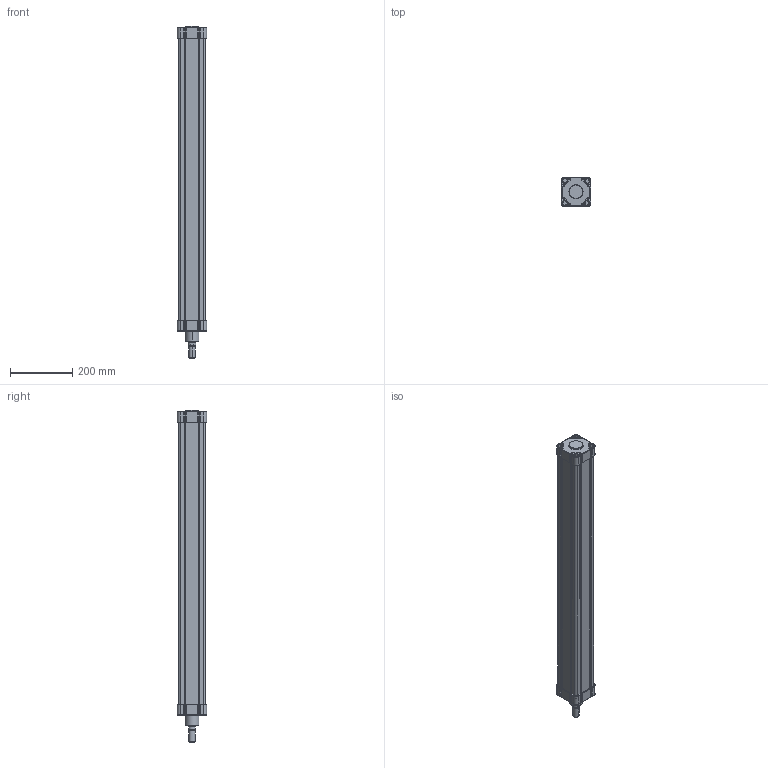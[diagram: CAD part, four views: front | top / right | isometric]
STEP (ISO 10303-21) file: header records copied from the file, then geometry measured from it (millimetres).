
FILE_DESCRIPTION((''),'2;1');
FILE_NAME('N11M20800850.stp','2010-01-07T00:09:21',('B. Petkovic 2010'),('AZ PNEUMATICA S.r.l.'),'Mechanical Desktop 2006','Mechanical Desktop 2006','Via Marco Biagi 6, I-20020 Misinto(MI) Italy, azpneu@tin.it');
FILE_SCHEMA(('CONFIG_CONTROL_DESIGN'));
Length unit declared in the file: millimetre
Products named in the file (2): N11M20630850; CILINDAR
Assembly tree (1 placements, depth 2):
  N11M20630850
    CILINDAR
Bounding box: 94 x 94 x 1069 mm (x, y, z)
Volume: 7213611 mm3; surface area: 480419.9 mm2
Topology: 1 solids, 1 shells, 683 faces, 1756 edges, 1117 vertices
Faces by surface type: cylinder 314, plane 289, torus 40, bspline 36, cone 4
Entity records: 22492 total; most frequent: CARTESIAN_POINT 5242, DIRECTION 3819, ORIENTED_EDGE 3512, EDGE_CURVE 1756, AXIS2_PLACEMENT_3D 1418, VERTEX_POINT 1117, VECTOR 983, LINE 983
